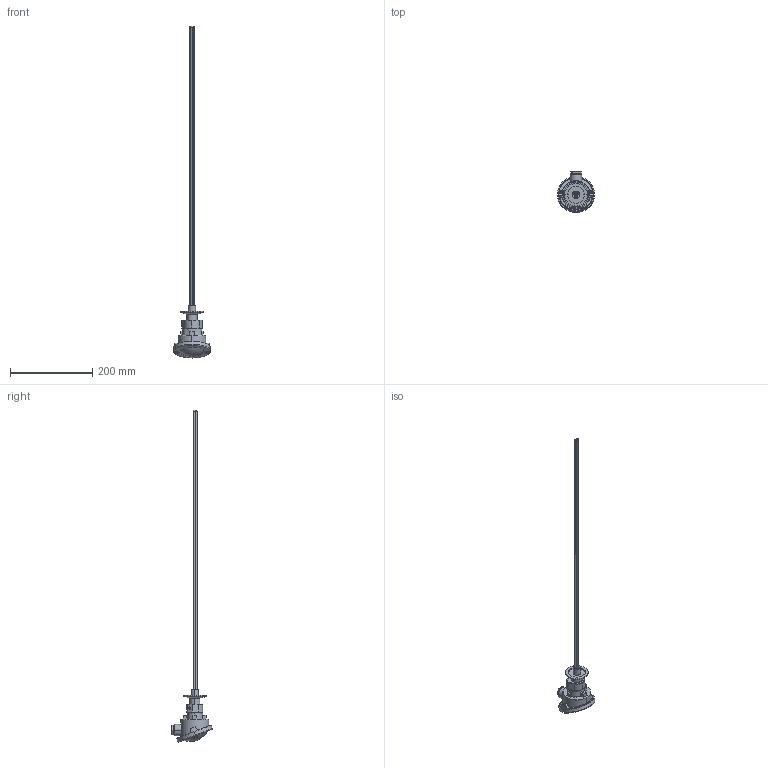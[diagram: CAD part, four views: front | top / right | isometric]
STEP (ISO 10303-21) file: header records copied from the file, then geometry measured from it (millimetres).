
FILE_DESCRIPTION (( 'STEP AP214' ), '1' );
FILE_NAME ('13-0503-KF40.STEP', '2018-09-02T09:15:46', ( '' ), ( '' ), 'SwSTEP 2.0', 'SolidWorks 2018', '' );
FILE_SCHEMA (( 'AUTOMOTIVE_DESIGN' ));
Length unit declared in the file: millimetre
Products named in the file (29): 22-0000-1018-01; 22-2003-1103-02; 22-2003-0102-01; Kopfeinsatz_Deckel; Kapillar_700; Anschlusskopf_Form_A_Kopf; 22-0503-1053-01; Anschlusskopf_Form_A; socket set screw cup point_din_DIN 916 - M6 x 8-C; Deckel^Anschlusskopf_Form_A; Kopfeinsatz_Dichtring_Deckel; DIN 84 M3 x 30 A4  3fach; Kopfeinsatz_Mutter; 22-0503-1101-20; Kopfeinsatz_QUteschring; Kabelverschraubung^Anschlusskopf_Form_A; Kopfeinsatz_Gummi; Montageplatte_3fach; slotted cheese head screw_din_ISO 1207 - M4 x 16 --- 16N; Einschub; 13-0503-KF40; Luesterklemme; Scheibe_M5_Kopf; Luesterklemme_BG; Schraube_M5_Kopf; Schraube_M3; Keramikrorh_740_NL700; slotted pan head screw_din_ISO 1580 - M4 x 6 --- 6C; DIN 84 M3 x 30 A4
Assembly tree (43 placements, depth 4):
  13-0503-KF40
    22-0503-1101-20
    DIN 84 M3 x 30 A4  3fach  x2
    DIN 84 M3 x 30 A4
    Keramikrorh_740_NL700  x3
    22-2003-0102-01
    22-2003-1103-02
    Anschlusskopf_Form_A
      Anschlusskopf_Form_A_Kopf
      Deckel^Anschlusskopf_Form_A
        Kopfeinsatz_Deckel
        Schraube_M5_Kopf  x2
        Scheibe_M5_Kopf  x2
        Kopfeinsatz_Dichtring_Deckel
      Kabelverschraubung^Anschlusskopf_Form_A
        Kopfeinsatz_QUteschring
        Kopfeinsatz_Mutter
        Kopfeinsatz_Gummi
      socket set screw cup point_din_DIN 916 - M6 x 8-C  x2
    Montageplatte_3fach
      Luesterklemme_BG  x2
        Luesterklemme
        Einschub
        Schraube_M3
      22-0000-1018-01  x2
      slotted pan head screw_din_ISO 1580 - M4 x 6 --- 6C  x2
      slotted cheese head screw_din_ISO 1207 - M4 x 16 --- 16N  x2
    22-0503-1053-01
    Kapillar_700  x2
Bounding box: 90 x 99.48 x 808.53 mm (x, y, z)
Volume: 213089.2 mm3; surface area: 180831.5 mm2
Topology: 44 solids, 44 shells, 971 faces, 2336 edges, 1437 vertices
Faces by surface type: cylinder 427, plane 322, cone 82, bspline 56, torus 44, sphere 40
Entity records: 24139 total; most frequent: CARTESIAN_POINT 7249, DIRECTION 3293, ORIENTED_EDGE 3072, EDGE_CURVE 1536, AXIS2_PLACEMENT_3D 1344, VERTEX_POINT 953, EDGE_LOOP 799, CIRCLE 687
